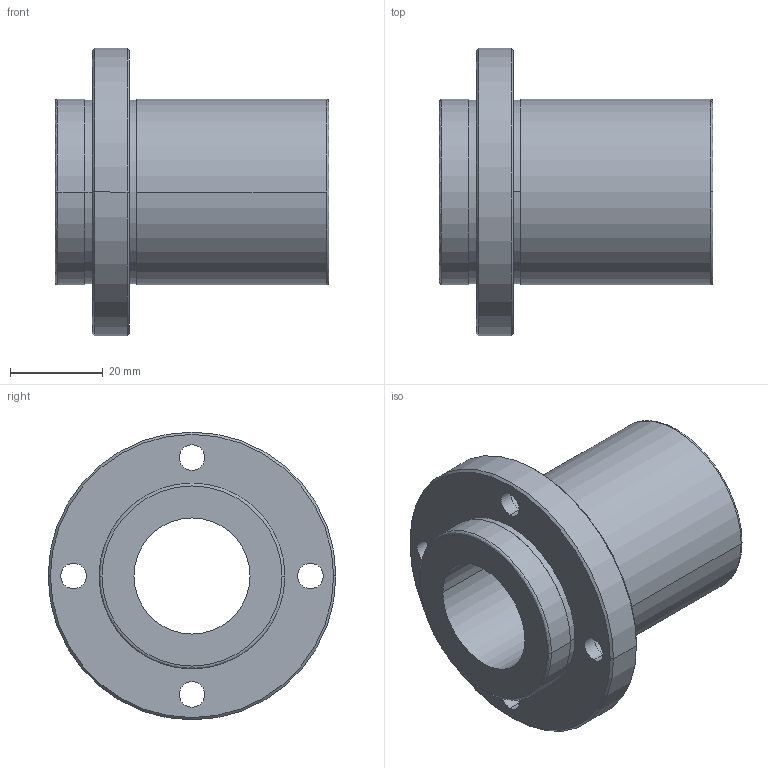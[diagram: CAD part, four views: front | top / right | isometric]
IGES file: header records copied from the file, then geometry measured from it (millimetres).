
Start section: 3D InterOp IGES (Version 21 0 1), Spatial Corp. Copyright (c) 1999-2007.
Global section: file name: NFID-25VUU.igs; native system: Spatial Corp.; preprocessor: 3D InterOp GENERIC/IGES 3.0; author: Noname; organization: Noname; date: 20220308.111832; units: millimetre
Bounding box: 59 x 62 x 62 mm (x, y, z)
Surface area: 18184.6 mm2 (no closed solid volume)
Topology: 0 solids, 0 shells, 46 faces, 204 edges, 204 vertices
Faces by surface type: revolution 36, extrusion 10
